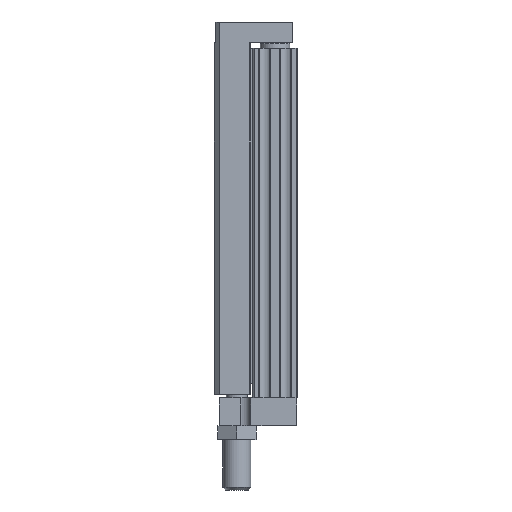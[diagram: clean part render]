
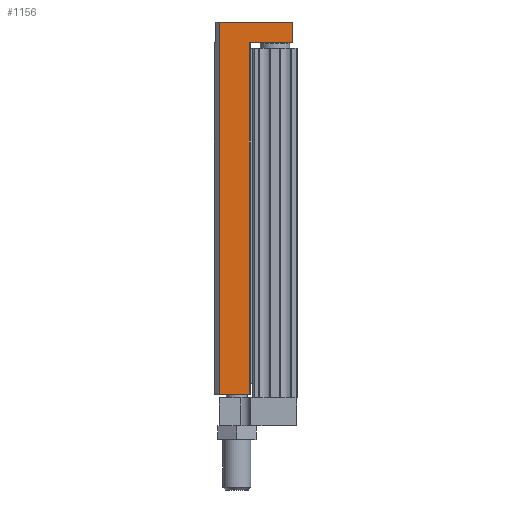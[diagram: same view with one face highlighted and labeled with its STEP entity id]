
A CAD part, left-side view. The second image highlights one B-rep face of the part: STEP entity #1156.
In plain terms, the highlighted planar face has unit normal (-1, 0, 0).
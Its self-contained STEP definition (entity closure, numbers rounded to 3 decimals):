
#1156 = ADVANCED_FACE( '', ( #2609 ), #2610, .T. );
#2609 = FACE_OUTER_BOUND( '', #4351, .T. );
#2610 = PLANE( '', #4352 );
#4351 = EDGE_LOOP( '', ( #7531, #7532, #7533, #7534, #7535, #7536 ) );
#4352 = AXIS2_PLACEMENT_3D( '', #7537, #7538, #7539 );
#7531 = ORIENTED_EDGE( '', *, *, #10520, .T. );
#7532 = ORIENTED_EDGE( '', *, *, #10521, .T. );
#7533 = ORIENTED_EDGE( '', *, *, #10522, .F. );
#7534 = ORIENTED_EDGE( '', *, *, #10523, .F. );
#7535 = ORIENTED_EDGE( '', *, *, #9739, .F. );
#7536 = ORIENTED_EDGE( '', *, *, #10524, .T. );
#7537 = CARTESIAN_POINT( '', ( -20., 22.5, -101. ) );
#7538 = DIRECTION( '', ( -1., 0., 0. ) );
#7539 = DIRECTION( '', ( 0., 0., 1. ) );
#9739 = EDGE_CURVE( '', #11649, #11651, #11652, .T. );
#10520 = EDGE_CURVE( '', #12823, #12824, #12825, .T. );
#10521 = EDGE_CURVE( '', #12824, #12826, #12827, .T. );
#10522 = EDGE_CURVE( '', #12828, #12826, #12829, .T. );
#10523 = EDGE_CURVE( '', #11651, #12828, #12830, .T. );
#10524 = EDGE_CURVE( '', #11649, #12823, #12831, .T. );
#11649 = VERTEX_POINT( '', #14292 );
#11651 = VERTEX_POINT( '', #14295 );
#11652 = LINE( '', #14296, #14297 );
#12823 = VERTEX_POINT( '', #15927 );
#12824 = VERTEX_POINT( '', #15928 );
#12825 = LINE( '', #15929, #15930 );
#12826 = VERTEX_POINT( '', #15931 );
#12827 = LINE( '', #15932, #15933 );
#12828 = VERTEX_POINT( '', #15934 );
#12829 = LINE( '', #15935, #15936 );
#12830 = LINE( '', #15937, #15938 );
#12831 = LINE( '', #15939, #15940 );
#14292 = CARTESIAN_POINT( '', ( -20., 22.5, -101. ) );
#14295 = CARTESIAN_POINT( '', ( -20., 22.5, 6. ) );
#14296 = CARTESIAN_POINT( '', ( -20., 22.5, -101. ) );
#14297 = VECTOR( '', #17092, 1000. );
#15927 = CARTESIAN_POINT( '', ( -20., 14., -101. ) );
#15928 = CARTESIAN_POINT( '', ( -20., 14., 0. ) );
#15929 = CARTESIAN_POINT( '', ( -20., 14., -101. ) );
#15930 = VECTOR( '', #17897, 1000. );
#15931 = CARTESIAN_POINT( '', ( -20., 1.5, 0. ) );
#15932 = CARTESIAN_POINT( '', ( -20., 22.5, 0. ) );
#15933 = VECTOR( '', #17898, 1000. );
#15934 = CARTESIAN_POINT( '', ( -20., 1.5, 6. ) );
#15935 = CARTESIAN_POINT( '', ( -20., 1.5, 6. ) );
#15936 = VECTOR( '', #17899, 1000. );
#15937 = CARTESIAN_POINT( '', ( -20., 22.5, 6. ) );
#15938 = VECTOR( '', #17900, 1000. );
#15939 = CARTESIAN_POINT( '', ( -20., 22.5, -101. ) );
#15940 = VECTOR( '', #17901, 1000. );
#17092 = DIRECTION( '', ( 0., 0., 1. ) );
#17897 = DIRECTION( '', ( 0., 0., 1. ) );
#17898 = DIRECTION( '', ( 0., -1., 0. ) );
#17899 = DIRECTION( '', ( 0., 0., -1. ) );
#17900 = DIRECTION( '', ( 0., -1., 0. ) );
#17901 = DIRECTION( '', ( 0., -1., 0. ) );
